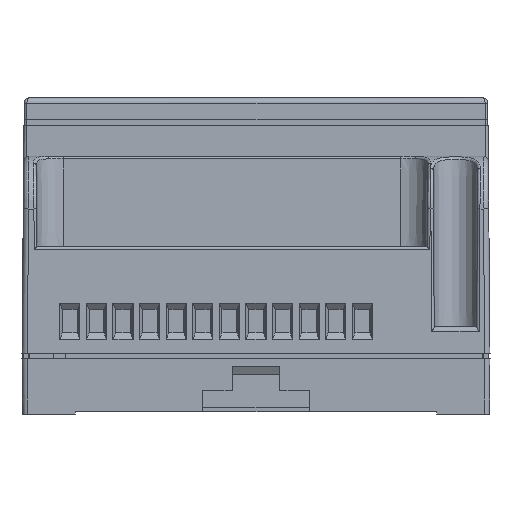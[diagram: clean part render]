
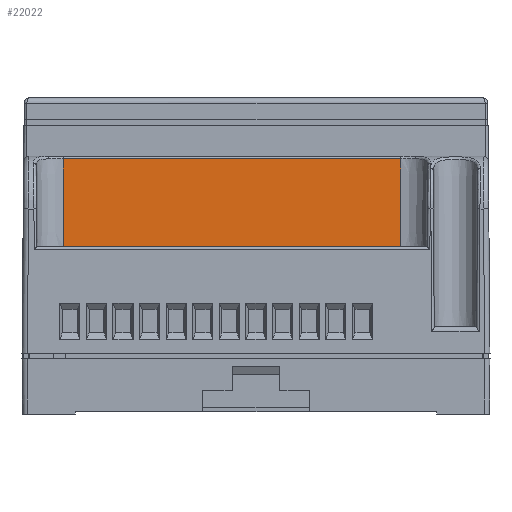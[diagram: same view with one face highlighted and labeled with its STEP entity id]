
A CAD part, front view. The second image highlights one B-rep face of the part: STEP entity #22022.
In plain terms, the highlighted planar face has unit normal (0, -1, 0.009).
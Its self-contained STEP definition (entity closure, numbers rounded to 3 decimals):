
#246 = LINE ( 'NONE', #28066, #30146 ) ;
#2102 = DIRECTION ( 'NONE',  ( 1., 0., 0. ) ) ;
#2892 = ORIENTED_EDGE ( 'NONE', *, *, #31159, .T. ) ;
#3979 = VERTEX_POINT ( 'NONE', #6095 ) ;
#4474 = CARTESIAN_POINT ( 'NONE',  ( 7.8, 10.5, 31.5 ) ) ;
#6095 = CARTESIAN_POINT ( 'NONE',  ( 7.8, 10.644, 48.004 ) ) ;
#7562 = CARTESIAN_POINT ( 'NONE',  ( 7.8, 10.5, 31.5 ) ) ;
#7675 = CARTESIAN_POINT ( 'NONE',  ( 7.8, 10.5, 31.5 ) ) ;
#7881 = EDGE_LOOP ( 'NONE', ( #10063, #2892, #22387, #10964 ) ) ;
#8565 = VECTOR ( 'NONE', #12026, 1000. ) ;
#10063 = ORIENTED_EDGE ( 'NONE', *, *, #15275, .T. ) ;
#10664 = EDGE_CURVE ( 'NONE', #3979, #33853, #17961, .T. ) ;
#10964 = ORIENTED_EDGE ( 'NONE', *, *, #10664, .F. ) ;
#12026 = DIRECTION ( 'NONE',  ( 1., 0., 0. ) ) ;
#12768 = DIRECTION ( 'NONE',  ( 0., -1., 0.009 ) ) ;
#15068 = LINE ( 'NONE', #20818, #17900 ) ;
#15275 = EDGE_CURVE ( 'NONE', #3979, #20527, #23601, .T. ) ;
#15835 = FACE_OUTER_BOUND ( 'NONE', #7881, .T. ) ;
#16899 = DIRECTION ( 'NONE',  ( 0., 0.009, 1. ) ) ;
#17900 = VECTOR ( 'NONE', #31806, 1000. ) ;
#17961 = LINE ( 'NONE', #20651, #8565 ) ;
#20527 = VERTEX_POINT ( 'NONE', #7675 ) ;
#20651 = CARTESIAN_POINT ( 'NONE',  ( 7.8, 10.644, 48.004 ) ) ;
#20818 = CARTESIAN_POINT ( 'NONE',  ( 7.8, 10.5, 31.5 ) ) ;
#22022 = ADVANCED_FACE ( 'NONE', ( #15835 ), #26653, .T. ) ;
#22387 = ORIENTED_EDGE ( 'NONE', *, *, #34929, .T. ) ;
#23601 = LINE ( 'NONE', #7562, #31791 ) ;
#26653 = PLANE ( 'NONE',  #35063 ) ;
#26853 = DIRECTION ( 'NONE',  ( 0., -0.009, -1. ) ) ;
#27809 = VERTEX_POINT ( 'NONE', #32944 ) ;
#28066 = CARTESIAN_POINT ( 'NONE',  ( 71.2, 10.5, 31.5 ) ) ;
#29219 = CARTESIAN_POINT ( 'NONE',  ( 71.2, 10.644, 48.004 ) ) ;
#30146 = VECTOR ( 'NONE', #16899, 1000. ) ;
#31159 = EDGE_CURVE ( 'NONE', #20527, #27809, #15068, .T. ) ;
#31791 = VECTOR ( 'NONE', #26853, 1000. ) ;
#31806 = DIRECTION ( 'NONE',  ( 1., 0., 0. ) ) ;
#32944 = CARTESIAN_POINT ( 'NONE',  ( 71.2, 10.5, 31.5 ) ) ;
#33853 = VERTEX_POINT ( 'NONE', #29219 ) ;
#34929 = EDGE_CURVE ( 'NONE', #27809, #33853, #246, .T. ) ;
#35063 = AXIS2_PLACEMENT_3D ( 'NONE', #4474, #12768, #2102 ) ;
